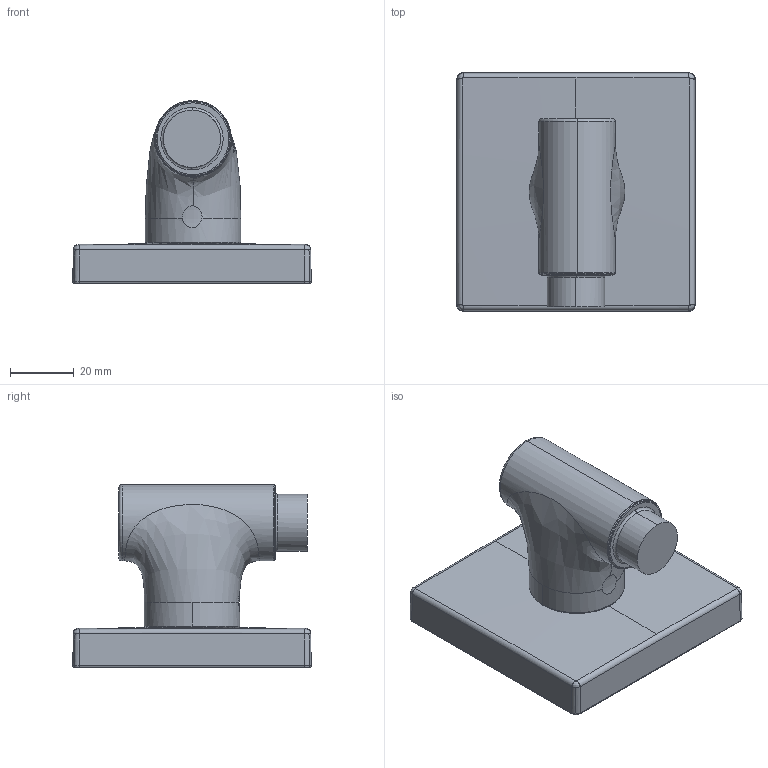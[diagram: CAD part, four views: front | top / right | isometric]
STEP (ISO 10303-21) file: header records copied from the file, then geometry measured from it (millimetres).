
FILE_DESCRIPTION (( 'STEP AP203' ), '1' );
FILE_NAME ('290023(2024).STEP', '2024-02-14T07:49:52', ( '' ), ( '' ), 'SwSTEP 2.0', 'SolidWorks 2016', '' );
FILE_SCHEMA (( 'CONFIG_CONTROL_DESIGN' ));
Length unit declared in the file: millimetre
Products named in the file (1): 290023(2024)
Bounding box: 74.98 x 74.98 x 57.5 mm (x, y, z)
Volume: 111461.9 mm3; surface area: 20809.8 mm2
Topology: 1 solids, 1 shells, 62 faces, 157 edges, 99 vertices
Faces by surface type: bspline 23, torus 16, cylinder 10, plane 9, sphere 2, cone 2
Entity records: 3594 total; most frequent: CARTESIAN_POINT 2178, ORIENTED_EDGE 314, DIRECTION 253, EDGE_CURVE 157, AXIS2_PLACEMENT_3D 118, VERTEX_POINT 99, CIRCLE 78, EDGE_LOOP 64
